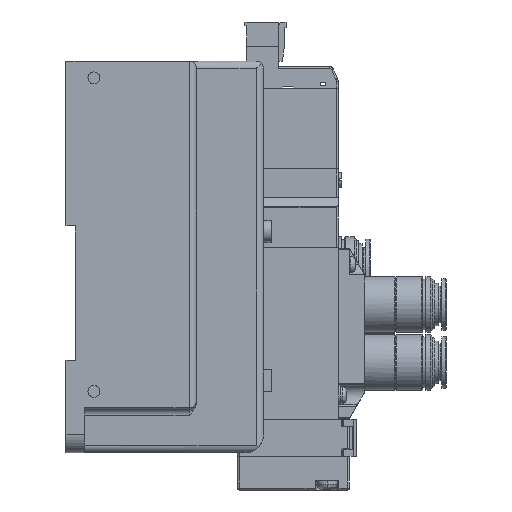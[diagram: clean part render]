
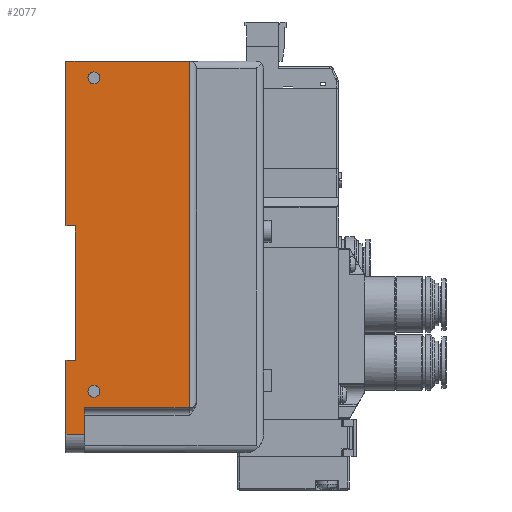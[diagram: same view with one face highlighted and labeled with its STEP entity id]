
A CAD part, left-side view. The second image highlights one B-rep face of the part: STEP entity #2077.
In plain terms, the highlighted planar face has unit normal (-1, 0, 0).
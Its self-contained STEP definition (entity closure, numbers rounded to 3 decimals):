
#2077=ADVANCED_FACE('',(#11773,#11774,#11775),#11772,.F.);
#11772=PLANE('',#19926);
#11773=FACE_OUTER_BOUND('',#19927,.T.);
#11774=FACE_BOUND('',#19928,.T.);
#11775=FACE_BOUND('',#19929,.T.);
#19923=CARTESIAN_POINT('',(0.,-41.3,72.2));
#19924=DIRECTION('',(1.,0.,0.));
#19925=DIRECTION('',(0.,0.,-1.));
#19926=AXIS2_PLACEMENT_3D('',#19923,#19924,#19925);
#19927=EDGE_LOOP('',(#25571,#25572,#25573,#25574,#25575,#25576,#25577,#25578,#25579,#25580));
#19928=EDGE_LOOP('',(#25581,#25582));
#19929=EDGE_LOOP('',(#25583,#25584));
#25571=ORIENTED_EDGE('',*,*,#29207,.F.);
#25572=ORIENTED_EDGE('',*,*,#29208,.T.);
#25573=ORIENTED_EDGE('',*,*,#29209,.F.);
#25574=ORIENTED_EDGE('',*,*,#29210,.F.);
#25575=ORIENTED_EDGE('',*,*,#29211,.T.);
#25576=ORIENTED_EDGE('',*,*,#29212,.F.);
#25577=ORIENTED_EDGE('',*,*,#29213,.T.);
#25578=ORIENTED_EDGE('',*,*,#29214,.T.);
#25579=ORIENTED_EDGE('',*,*,#29215,.F.);
#25580=ORIENTED_EDGE('',*,*,#29216,.F.);
#25581=ORIENTED_EDGE('',*,*,#29217,.F.);
#25582=ORIENTED_EDGE('',*,*,#29218,.F.);
#25583=ORIENTED_EDGE('',*,*,#29219,.F.);
#25584=ORIENTED_EDGE('',*,*,#29220,.F.);
#29207=EDGE_CURVE('',#45573,#45574,#45575,.T.);
#29208=EDGE_CURVE('',#45573,#45581,#45582,.T.);
#29209=EDGE_CURVE('',#45588,#45581,#45589,.T.);
#29210=EDGE_CURVE('',#45595,#45588,#45596,.T.);
#29211=EDGE_CURVE('',#45595,#45077,#45602,.T.);
#29212=EDGE_CURVE('',#45608,#45077,#45609,.T.);
#29213=EDGE_CURVE('',#45608,#45615,#45616,.T.);
#29214=EDGE_CURVE('',#45615,#45622,#45623,.T.);
#29215=EDGE_CURVE('',#45629,#45622,#45630,.T.);
#29216=EDGE_CURVE('',#45574,#45629,#45636,.T.);
#29217=EDGE_CURVE('',#45642,#45643,#45644,.T.);
#29218=EDGE_CURVE('',#45643,#45642,#45650,.T.);
#29219=EDGE_CURVE('',#45656,#45657,#45658,.T.);
#29220=EDGE_CURVE('',#45657,#45656,#45664,.T.);
#45077=VERTEX_POINT('',#57248);
#45573=VERTEX_POINT('',#57537);
#45574=VERTEX_POINT('',#57538);
#45575=LINE('',#57539,#57540);
#45581=VERTEX_POINT('',#57542);
#45582=LINE('',#57543,#57544);
#45588=VERTEX_POINT('',#57546);
#45589=LINE('',#57547,#57548);
#45595=VERTEX_POINT('',#57550);
#45596=LINE('',#57551,#57552);
#45602=LINE('',#57554,#57555);
#45608=VERTEX_POINT('',#57557);
#45609=LINE('',#57558,#57559);
#45615=VERTEX_POINT('',#57561);
#45616=LINE('',#57562,#57563);
#45622=VERTEX_POINT('',#57565);
#45623=LINE('',#57566,#57567);
#45629=VERTEX_POINT('',#57569);
#45630=LINE('',#57570,#57571);
#45636=LINE('',#57573,#57574);
#45642=VERTEX_POINT('',#57576);
#45643=VERTEX_POINT('',#57577);
#45644=CIRCLE('',#57581,1.6);
#45650=CIRCLE('',#57585,1.6);
#45656=VERTEX_POINT('',#57586);
#45657=VERTEX_POINT('',#57587);
#45658=CIRCLE('',#57591,1.6);
#45664=CIRCLE('',#57595,1.6);
#57248=CARTESIAN_POINT('',(0.,-38.,-30.8));
#57537=CARTESIAN_POINT('',(0.,-5.,-18.));
#57538=CARTESIAN_POINT('',(0.,-7.5,-18.));
#57539=CARTESIAN_POINT('',(0.,-5.,-18.));
#57540=VECTOR('',#57541,2.5);
#57541=DIRECTION('',(0.,-1.,0.));
#57542=CARTESIAN_POINT('',(0.,-5.,-37.8));
#57543=CARTESIAN_POINT('',(0.,-5.,-18.));
#57544=VECTOR('',#57545,19.8);
#57545=DIRECTION('',(0.,0.,-1.));
#57546=CARTESIAN_POINT('',(0.,-10.,-37.8));
#57547=CARTESIAN_POINT('',(0.,-10.,-37.8));
#57548=VECTOR('',#57549,5.);
#57549=DIRECTION('',(0.,1.,0.));
#57550=CARTESIAN_POINT('',(0.,-10.,-30.8));
#57551=CARTESIAN_POINT('',(0.,-10.,-30.8));
#57552=VECTOR('',#57553,7.);
#57553=DIRECTION('',(0.,0.,-1.));
#57554=CARTESIAN_POINT('',(0.,-10.,-30.8));
#57555=VECTOR('',#57556,28.);
#57556=DIRECTION('',(0.,-1.,0.));
#57557=CARTESIAN_POINT('',(0.,-38.,62.2));
#57558=CARTESIAN_POINT('',(0.,-38.,62.2));
#57559=VECTOR('',#57560,93.);
#57560=DIRECTION('',(0.,0.,-1.));
#57561=CARTESIAN_POINT('',(0.,-5.,62.2));
#57562=CARTESIAN_POINT('',(0.,-38.,62.2));
#57563=VECTOR('',#57564,33.);
#57564=DIRECTION('',(0.,1.,0.));
#57565=CARTESIAN_POINT('',(0.,-5.,18.));
#57566=CARTESIAN_POINT('',(0.,-5.,62.2));
#57567=VECTOR('',#57568,44.2);
#57568=DIRECTION('',(0.,0.,-1.));
#57569=CARTESIAN_POINT('',(0.,-7.5,18.));
#57570=CARTESIAN_POINT('',(0.,-7.5,18.));
#57571=VECTOR('',#57572,2.5);
#57572=DIRECTION('',(0.,1.,0.));
#57573=CARTESIAN_POINT('',(0.,-7.5,-18.));
#57574=VECTOR('',#57575,36.);
#57575=DIRECTION('',(0.,0.,1.));
#57576=CARTESIAN_POINT('',(0.,-12.5,59.3));
#57577=CARTESIAN_POINT('',(0.,-12.5,56.1));
#57578=CARTESIAN_POINT('',(0.,-12.5,57.7));
#57579=DIRECTION('',(-1.,0.,0.));
#57580=DIRECTION('',(0.,0.,-1.));
#57581=AXIS2_PLACEMENT_3D('',#57578,#57579,#57580);
#57582=CARTESIAN_POINT('',(0.,-12.5,57.7));
#57583=DIRECTION('',(-1.,0.,0.));
#57584=DIRECTION('',(0.,0.,-1.));
#57585=AXIS2_PLACEMENT_3D('',#57582,#57583,#57584);
#57586=CARTESIAN_POINT('',(0.,-12.5,-24.7));
#57587=CARTESIAN_POINT('',(0.,-12.5,-27.9));
#57588=CARTESIAN_POINT('',(0.,-12.5,-26.3));
#57589=DIRECTION('',(-1.,0.,0.));
#57590=DIRECTION('',(0.,0.,-1.));
#57591=AXIS2_PLACEMENT_3D('',#57588,#57589,#57590);
#57592=CARTESIAN_POINT('',(0.,-12.5,-26.3));
#57593=DIRECTION('',(-1.,0.,0.));
#57594=DIRECTION('',(0.,0.,-1.));
#57595=AXIS2_PLACEMENT_3D('',#57592,#57593,#57594);
